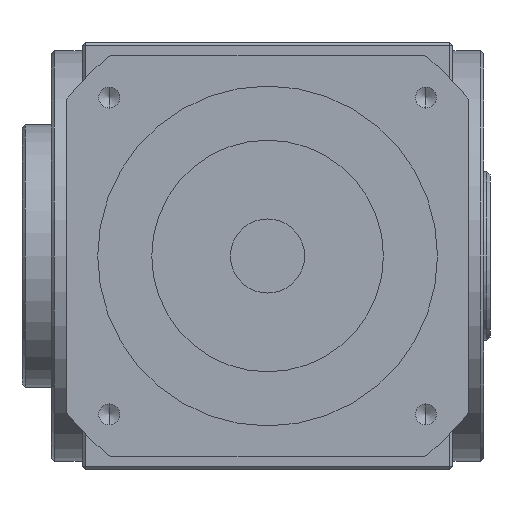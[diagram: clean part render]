
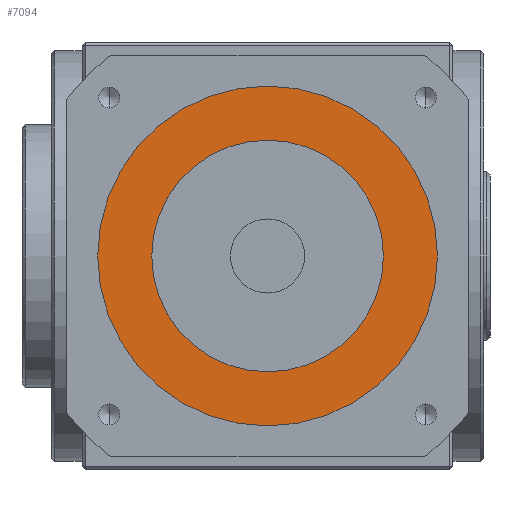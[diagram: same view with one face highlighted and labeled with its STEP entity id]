
A CAD part, front view. The second image highlights one B-rep face of the part: STEP entity #7094.
In plain terms, the highlighted planar face has unit normal (0, -1, 0).
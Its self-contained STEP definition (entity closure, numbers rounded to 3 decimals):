
#285 = CARTESIAN_POINT ( 'NONE',  ( 0., -204., 55. ) ) ;
#322 = CARTESIAN_POINT ( 'NONE',  ( 0., -204., 0. ) ) ;
#654 = EDGE_LOOP ( 'NONE', ( #10570, #6633 ) ) ;
#725 = PLANE ( 'NONE',  #3249 ) ;
#1191 = DIRECTION ( 'NONE',  ( 0., 0., -1. ) ) ;
#1575 = CARTESIAN_POINT ( 'NONE',  ( 0., -204., 0. ) ) ;
#1840 = CARTESIAN_POINT ( 'NONE',  ( 0., -204., 0. ) ) ;
#2699 = DIRECTION ( 'NONE',  ( 0., 0., -1. ) ) ;
#2982 = CIRCLE ( 'NONE', #6324, 37.5 ) ;
#3249 = AXIS2_PLACEMENT_3D ( 'NONE', #1575, #4138, #9915 ) ;
#3365 = VERTEX_POINT ( 'NONE', #3753 ) ;
#3753 = CARTESIAN_POINT ( 'NONE',  ( 0., -204., 37.5 ) ) ;
#4024 = VERTEX_POINT ( 'NONE', #285 ) ;
#4138 = DIRECTION ( 'NONE',  ( 0., -1., 0. ) ) ;
#4160 = CARTESIAN_POINT ( 'NONE',  ( 0., -204., 0. ) ) ;
#4214 = FACE_OUTER_BOUND ( 'NONE', #654, .T. ) ;
#4433 = CARTESIAN_POINT ( 'NONE',  ( 0., -204., 0. ) ) ;
#4995 = DIRECTION ( 'NONE',  ( 0., 0., -1. ) ) ;
#5169 = ORIENTED_EDGE ( 'NONE', *, *, #8514, .T. ) ;
#5267 = DIRECTION ( 'NONE',  ( 0., 0., -1. ) ) ;
#5566 = EDGE_LOOP ( 'NONE', ( #5169, #7633 ) ) ;
#5632 = CIRCLE ( 'NONE', #8434, 37.5 ) ;
#5673 = AXIS2_PLACEMENT_3D ( 'NONE', #322, #6232, #1191 ) ;
#6137 = CARTESIAN_POINT ( 'NONE',  ( 0., -204., -37.5 ) ) ;
#6232 = DIRECTION ( 'NONE',  ( 0., -1., 0. ) ) ;
#6324 = AXIS2_PLACEMENT_3D ( 'NONE', #4160, #9926, #4995 ) ;
#6494 = EDGE_CURVE ( 'NONE', #4024, #10507, #8417, .T. ) ;
#6633 = ORIENTED_EDGE ( 'NONE', *, *, #6494, .T. ) ;
#7094 = ADVANCED_FACE ( 'NONE', ( #4214, #8585 ), #725, .T. ) ;
#7633 = ORIENTED_EDGE ( 'NONE', *, *, #9028, .T. ) ;
#7702 = DIRECTION ( 'NONE',  ( 0., -1., 0. ) ) ;
#7793 = CIRCLE ( 'NONE', #5673, 55. ) ;
#7978 = CARTESIAN_POINT ( 'NONE',  ( 0., -204., -55. ) ) ;
#8417 = CIRCLE ( 'NONE', #9291, 55. ) ;
#8434 = AXIS2_PLACEMENT_3D ( 'NONE', #4433, #10182, #5267 ) ;
#8514 = EDGE_CURVE ( 'NONE', #10348, #3365, #5632, .T. ) ;
#8585 = FACE_BOUND ( 'NONE', #5566, .T. ) ;
#9028 = EDGE_CURVE ( 'NONE', #3365, #10348, #2982, .T. ) ;
#9286 = EDGE_CURVE ( 'NONE', #10507, #4024, #7793, .T. ) ;
#9291 = AXIS2_PLACEMENT_3D ( 'NONE', #1840, #7702, #2699 ) ;
#9915 = DIRECTION ( 'NONE',  ( 0., 0., -1. ) ) ;
#9926 = DIRECTION ( 'NONE',  ( 0., 1., 0. ) ) ;
#10182 = DIRECTION ( 'NONE',  ( 0., 1., 0. ) ) ;
#10348 = VERTEX_POINT ( 'NONE', #6137 ) ;
#10507 = VERTEX_POINT ( 'NONE', #7978 ) ;
#10570 = ORIENTED_EDGE ( 'NONE', *, *, #9286, .T. ) ;
